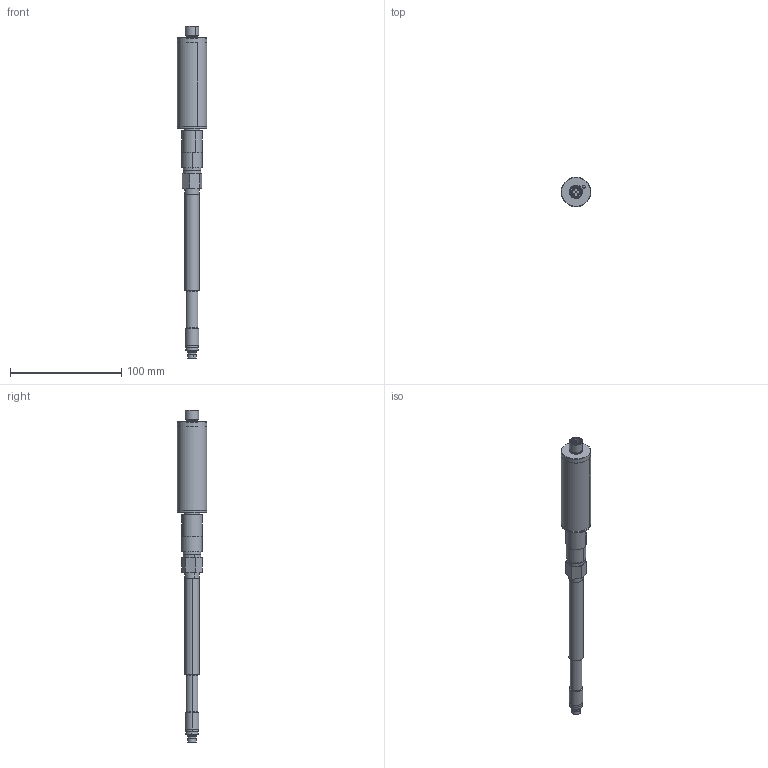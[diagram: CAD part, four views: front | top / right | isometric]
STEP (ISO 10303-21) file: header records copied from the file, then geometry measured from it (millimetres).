
FILE_DESCRIPTION (( 'STEP AP203' ), '1' );
FILE_NAME ('ILI0-A-5-x-xxxx-1-4-0-0.STEP', '2021-02-04T13:01:35', ( '' ), ( '' ), 'SwSTEP 2.0', 'SolidWorks 2021', '' );
FILE_SCHEMA (( 'CONFIG_CONTROL_DESIGN' ));
Length unit declared in the file: millimetre
Products named in the file (1): ILI0-A-5-x-xxxx-1-4-0-0
Bounding box: 26.47 x 26.47 x 298.4 mm (x, y, z)
Surface area: 18198.1 mm2 (no closed solid volume)
Topology: 0 solids, 18 shells, 147 faces, 375 edges, 243 vertices
Faces by surface type: cylinder 56, plane 35, torus 24, cone 22, bspline 10
Entity records: 4693 total; most frequent: CARTESIAN_POINT 1034, DIRECTION 841, ORIENTED_EDGE 652, EDGE_CURVE 365, AXIS2_PLACEMENT_3D 362, VERTEX_POINT 243, CIRCLE 224, EDGE_LOOP 166
